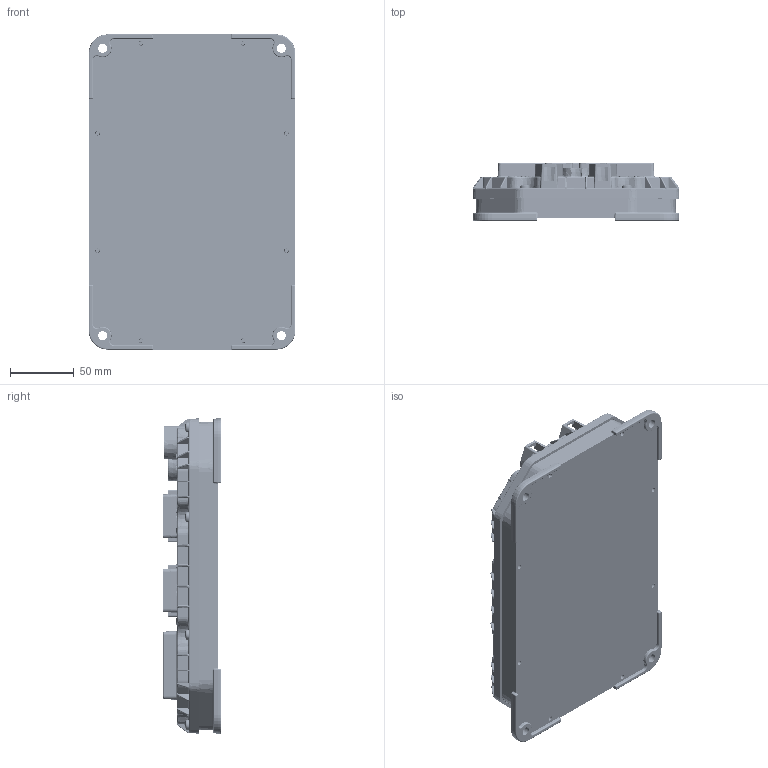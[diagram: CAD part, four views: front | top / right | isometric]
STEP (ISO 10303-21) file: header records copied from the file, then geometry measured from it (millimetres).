
FILE_DESCRIPTION((''),'2;1');
FILE_NAME('C:\VaultCheckout\GSProjects\gsna_website_2d_3d_drawings\parker_vansco_VMM1615_3d_drawing.stp','2014-01-09T16:39:37',('JGraham'),(''),'Autodesk Inventor 2012','Autodesk Inventor 2012','');
FILE_SCHEMA(('AUTOMOTIVE_DESIGN { 1 0 10303 214 1 1 1 1 }'));
Length unit declared in the file: millimetre
Products named in the file (12): parker_vansco_VMM1615_3d_drawing; 935501; 935508_ASM; 935508; 935511_SEAL; 935515; 935507; 935512; TSSS0807; TSSS0706; PDL_22; PDL-22_ID_PROCESS_LABEL_TEXT
Assembly tree (33 placements, depth 3):
  parker_vansco_VMM1615_3d_drawing
    935501
    935508_ASM
      935508
      935511_SEAL  x2
      935515  x2
    935507
    935512
    TSSS0807  x8
    TSSS0706  x14
    PDL_22
    PDL-22_ID_PROCESS_LABEL_TEXT
Bounding box: 162 x 45.64 x 247 mm (x, y, z)
Volume: 404113.9 mm3; surface area: 316807.3 mm2
Topology: 32 solids, 33 shells, 7039 faces, 17463 edges, 10617 vertices
Faces by surface type: plane 2458, cylinder 1812, bspline 986, torus 914, cone 673, sphere 196
Full cylindrical faces by diameter (mm): 2 x48, 2.54 x12, 3.086 x14, 3.19 x2, 3.25 x40, 3.658 x8, 4 x2, 4.4 x8, 5.08 x12, 6.35 x2, 6.858 x14, 7 x4, 8.179 x8, 8.5 x2, 10.5 x2, 13.588 x4, 14.5 x2, 15.006 x2, 15.04 x6, 16.5 x2, 17.036 x2, 17.2 x2, 20.566 x2
Entity records: 207889 total; most frequent: CARTESIAN_POINT 70986, DIRECTION 28802, ORIENTED_EDGE 28004, EDGE_CURVE 14002, AXIS2_PLACEMENT_3D 10489, VERTEX_POINT 8799, VECTOR 7824, LINE 7824
